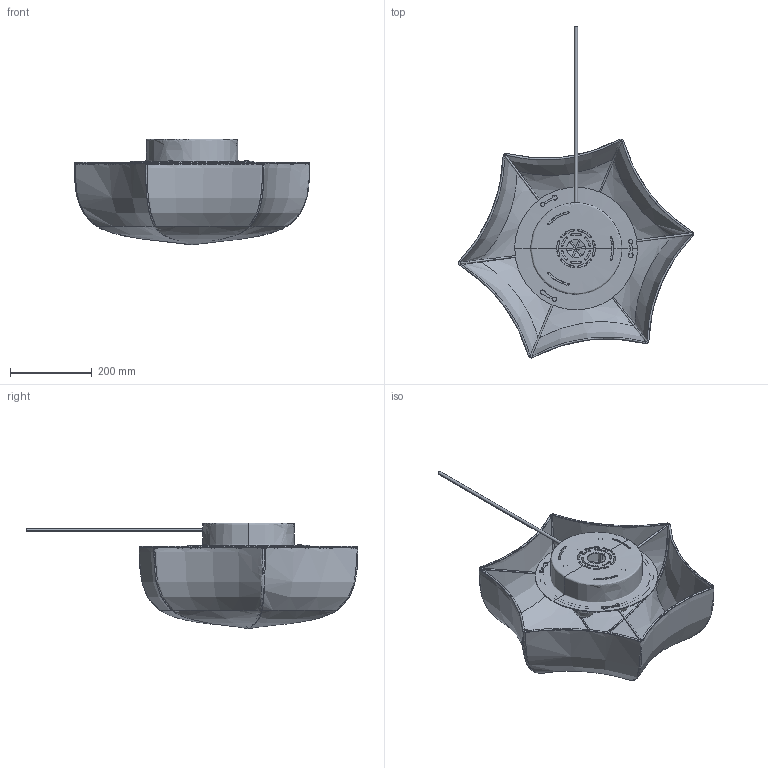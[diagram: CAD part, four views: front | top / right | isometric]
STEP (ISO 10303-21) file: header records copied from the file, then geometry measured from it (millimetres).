
FILE_DESCRIPTION(/* description */ (''),/* implementation_level */ '2;1');
FILE_NAME(/* name */ 'Poem wall:ceiling Ø60_3D',/* time_stamp */ '2023-03-23T11:36:37+01:00',/* author */ (''),/* organization */ (''),/* preprocessor_version */ 'ST-DEVELOPER v16.5',/* originating_system */ 'Rhino 7.28',/* authorisation */ '');
FILE_SCHEMA (('CONFIG_CONTROL_DESIGN'));
Length unit declared in the file: millimetre
Products named in the file (1): Document
Bounding box: 575.58 x 812.68 x 259 mm (x, y, z)
Volume: 1063208.2 mm3; surface area: 855504.4 mm2
Topology: 28 solids, 32 shells, 260 faces, 651 edges, 374 vertices
Faces by surface type: bspline 141, cylinder 83, plane 36
Entity records: 13964 total; most frequent: CARTESIAN_POINT 10470, ORIENTED_EDGE 1138, EDGE_CURVE 573, VERTEX_POINT 364, EDGE_LOOP 297, ADVANCED_FACE 260, FACE_OUTER_BOUND 260, DIRECTION 127
